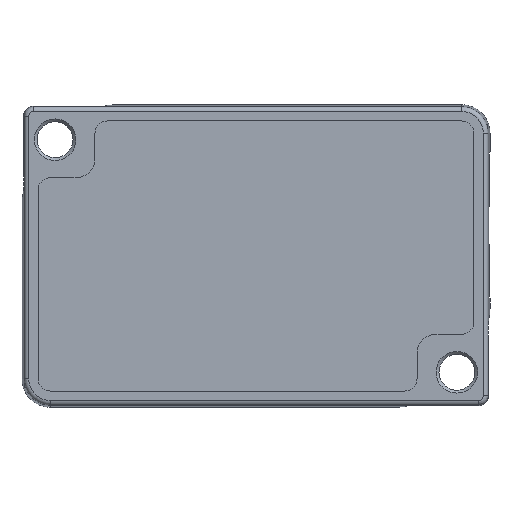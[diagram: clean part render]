
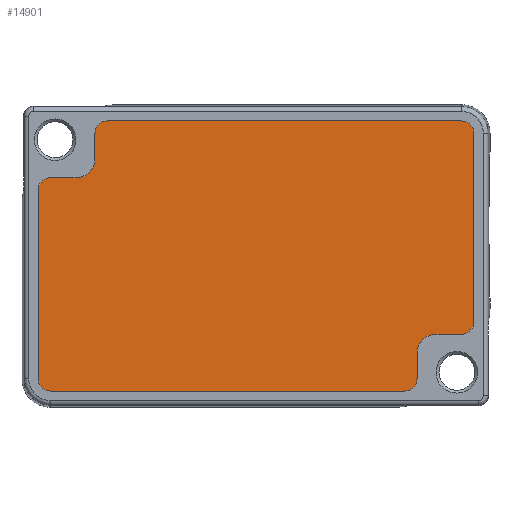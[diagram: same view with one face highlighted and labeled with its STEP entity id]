
A CAD part, front view. The second image highlights one B-rep face of the part: STEP entity #14901.
In plain terms, the highlighted planar face has unit normal (0, -1, 0).
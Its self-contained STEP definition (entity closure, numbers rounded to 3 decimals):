
#116 = ORIENTED_EDGE ( 'NONE', *, *, #9538, .T. ) ;
#149 = CARTESIAN_POINT ( 'NONE',  ( -17.035, -5.996, 12.995 ) ) ;
#175 = CARTESIAN_POINT ( 'NONE',  ( -19.035, -5.996, 8.285 ) ) ;
#199 = VERTEX_POINT ( 'NONE', #20589 ) ;
#345 = DIRECTION ( 'NONE',  ( 1., 0., 0. ) ) ;
#354 = LINE ( 'NONE', #149, #8045 ) ;
#425 = LINE ( 'NONE', #3772, #4942 ) ;
#596 = ORIENTED_EDGE ( 'NONE', *, *, #6743, .T. ) ;
#676 = VECTOR ( 'NONE', #3401, 1000. ) ;
#760 = EDGE_CURVE ( 'NONE', #199, #12439, #3956, .T. ) ;
#838 = AXIS2_PLACEMENT_3D ( 'NONE', #11114, #3053, #11228 ) ;
#894 = CARTESIAN_POINT ( 'NONE',  ( 21.745, -5.996, 12.995 ) ) ;
#1264 = VERTEX_POINT ( 'NONE', #12819 ) ;
#1303 = CARTESIAN_POINT ( 'NONE',  ( 15.745, -5.996, -14.285 ) ) ;
#1607 = ORIENTED_EDGE ( 'NONE', *, *, #20624, .T. ) ;
#1628 = CIRCLE ( 'NONE', #5458, 1.29 ) ;
#1905 = VERTEX_POINT ( 'NONE', #8313 ) ;
#2117 = VERTEX_POINT ( 'NONE', #19654 ) ;
#2132 = VERTEX_POINT ( 'NONE', #175 ) ;
#2575 = AXIS2_PLACEMENT_3D ( 'NONE', #894, #5700, #4159 ) ;
#2619 = DIRECTION ( 'NONE',  ( 0., -1., 0. ) ) ;
#2702 = DIRECTION ( 'NONE',  ( 1., 0., 0. ) ) ;
#2943 = VERTEX_POINT ( 'NONE', #16839 ) ;
#2965 = DIRECTION ( 'NONE',  ( 0., -1., 0. ) ) ;
#3053 = DIRECTION ( 'NONE',  ( 0., -1., 0. ) ) ;
#3393 = CARTESIAN_POINT ( 'NONE',  ( -19.035, -5.996, 10.285 ) ) ;
#3401 = DIRECTION ( 'NONE',  ( 0., 0., 1. ) ) ;
#3507 = CARTESIAN_POINT ( 'NONE',  ( 23.035, -5.996, -6.995 ) ) ;
#3620 = LINE ( 'NONE', #3507, #676 ) ;
#3673 = CARTESIAN_POINT ( 'NONE',  ( 19.035, -5.996, -8.285 ) ) ;
#3772 = CARTESIAN_POINT ( 'NONE',  ( -23.035, -5.996, 6.995 ) ) ;
#3956 = LINE ( 'NONE', #12426, #14425 ) ;
#4005 = CARTESIAN_POINT ( 'NONE',  ( -23.035, -5.996, -12.995 ) ) ;
#4159 = DIRECTION ( 'NONE',  ( 1., 0., 0. ) ) ;
#4354 = VERTEX_POINT ( 'NONE', #17390 ) ;
#4463 = CARTESIAN_POINT ( 'NONE',  ( 23.035, -5.996, -6.995 ) ) ;
#4706 = VERTEX_POINT ( 'NONE', #10339 ) ;
#4723 = VECTOR ( 'NONE', #14223, 1000. ) ;
#4846 = CARTESIAN_POINT ( 'NONE',  ( -19.035, -5.996, 10.285 ) ) ;
#4942 = VECTOR ( 'NONE', #18627, 1000. ) ;
#4948 = FACE_OUTER_BOUND ( 'NONE', #8790, .T. ) ;
#5092 = ORIENTED_EDGE ( 'NONE', *, *, #16815, .T. ) ;
#5458 = AXIS2_PLACEMENT_3D ( 'NONE', #21260, #9245, #2702 ) ;
#5700 = DIRECTION ( 'NONE',  ( 0., -1., 0. ) ) ;
#5773 = EDGE_CURVE ( 'NONE', #2117, #10764, #425, .T. ) ;
#5889 = DIRECTION ( 'NONE',  ( -1., 0., 0. ) ) ;
#6002 = ORIENTED_EDGE ( 'NONE', *, *, #14160, .T. ) ;
#6674 = CIRCLE ( 'NONE', #18746, 2. ) ;
#6696 = PLANE ( 'NONE',  #12517 ) ;
#6743 = EDGE_CURVE ( 'NONE', #10764, #199, #14394, .T. ) ;
#6764 = VERTEX_POINT ( 'NONE', #9772 ) ;
#7191 = VECTOR ( 'NONE', #19422, 1000. ) ;
#7202 = EDGE_CURVE ( 'NONE', #10882, #16684, #10595, .T. ) ;
#7227 = DIRECTION ( 'NONE',  ( 0., 0., 1. ) ) ;
#7389 = EDGE_CURVE ( 'NONE', #11364, #2132, #21361, .T. ) ;
#7536 = VECTOR ( 'NONE', #7227, 1000. ) ;
#7544 = ORIENTED_EDGE ( 'NONE', *, *, #8118, .T. ) ;
#7813 = EDGE_CURVE ( 'NONE', #1264, #13010, #1628, .T. ) ;
#7964 = CARTESIAN_POINT ( 'NONE',  ( 19.035, -5.996, -10.285 ) ) ;
#8045 = VECTOR ( 'NONE', #20409, 1000. ) ;
#8118 = EDGE_CURVE ( 'NONE', #6764, #4706, #10921, .T. ) ;
#8229 = ORIENTED_EDGE ( 'NONE', *, *, #7389, .T. ) ;
#8313 = CARTESIAN_POINT ( 'NONE',  ( -17.035, -5.996, 12.995 ) ) ;
#8385 = VERTEX_POINT ( 'NONE', #3673 ) ;
#8619 = CARTESIAN_POINT ( 'NONE',  ( -17.035, -5.996, 10.285 ) ) ;
#8790 = EDGE_LOOP ( 'NONE', ( #8229, #15881, #5092, #18200, #596, #14247, #116, #19398, #16201, #15963, #17007, #6002, #7544, #1607, #12834, #18173 ) ) ;
#9021 = CARTESIAN_POINT ( 'NONE',  ( 21.745, -5.996, 14.285 ) ) ;
#9225 = EDGE_CURVE ( 'NONE', #2132, #2943, #20498, .T. ) ;
#9245 = DIRECTION ( 'NONE',  ( 0., -1., 0. ) ) ;
#9338 = DIRECTION ( 'NONE',  ( 0., -1., 0. ) ) ;
#9538 = EDGE_CURVE ( 'NONE', #12439, #10882, #10982, .T. ) ;
#9772 = CARTESIAN_POINT ( 'NONE',  ( 23.035, -5.996, 12.995 ) ) ;
#10141 = DIRECTION ( 'NONE',  ( 0., 1., 0. ) ) ;
#10339 = CARTESIAN_POINT ( 'NONE',  ( 21.745, -5.996, 14.285 ) ) ;
#10594 = DIRECTION ( 'NONE',  ( 1., 0., 0. ) ) ;
#10595 = LINE ( 'NONE', #14147, #7536 ) ;
#10764 = VERTEX_POINT ( 'NONE', #4005 ) ;
#10882 = VERTEX_POINT ( 'NONE', #18192 ) ;
#10921 = CIRCLE ( 'NONE', #2575, 1.29 ) ;
#10982 = CIRCLE ( 'NONE', #16524, 1.29 ) ;
#11104 = LINE ( 'NONE', #14535, #7191 ) ;
#11114 = CARTESIAN_POINT ( 'NONE',  ( -21.745, -5.996, 6.995 ) ) ;
#11140 = CIRCLE ( 'NONE', #14228, 1.29 ) ;
#11228 = DIRECTION ( 'NONE',  ( 1., 0., 0. ) ) ;
#11302 = EDGE_CURVE ( 'NONE', #4354, #1905, #11140, .T. ) ;
#11364 = VERTEX_POINT ( 'NONE', #8619 ) ;
#11388 = CARTESIAN_POINT ( 'NONE',  ( -21.745, -5.996, -12.995 ) ) ;
#11451 = DIRECTION ( 'NONE',  ( 0., 1., 0. ) ) ;
#11529 = EDGE_CURVE ( 'NONE', #8385, #1264, #11104, .T. ) ;
#11603 = DIRECTION ( 'NONE',  ( -1., 0., 0. ) ) ;
#12012 = AXIS2_PLACEMENT_3D ( 'NONE', #3393, #10141, #345 ) ;
#12244 = VECTOR ( 'NONE', #5889, 1000. ) ;
#12426 = CARTESIAN_POINT ( 'NONE',  ( -21.745, -5.996, -14.285 ) ) ;
#12439 = VERTEX_POINT ( 'NONE', #1303 ) ;
#12517 = AXIS2_PLACEMENT_3D ( 'NONE', #4846, #11451, #19892 ) ;
#12819 = CARTESIAN_POINT ( 'NONE',  ( 21.745, -5.996, -8.285 ) ) ;
#12834 = ORIENTED_EDGE ( 'NONE', *, *, #11302, .T. ) ;
#13010 = VERTEX_POINT ( 'NONE', #4463 ) ;
#14147 = CARTESIAN_POINT ( 'NONE',  ( 17.035, -5.996, -10.285 ) ) ;
#14160 = EDGE_CURVE ( 'NONE', #13010, #6764, #3620, .T. ) ;
#14198 = CARTESIAN_POINT ( 'NONE',  ( 15.745, -5.996, -12.995 ) ) ;
#14223 = DIRECTION ( 'NONE',  ( -1., 0., 0. ) ) ;
#14228 = AXIS2_PLACEMENT_3D ( 'NONE', #19446, #2965, #19663 ) ;
#14247 = ORIENTED_EDGE ( 'NONE', *, *, #760, .T. ) ;
#14394 = CIRCLE ( 'NONE', #15444, 1.29 ) ;
#14425 = VECTOR ( 'NONE', #10594, 1000. ) ;
#14535 = CARTESIAN_POINT ( 'NONE',  ( 21.745, -5.996, -8.285 ) ) ;
#14665 = DIRECTION ( 'NONE',  ( 1., 0., 0. ) ) ;
#14876 = DIRECTION ( 'NONE',  ( 0., 1., 0. ) ) ;
#14901 = ADVANCED_FACE ( 'NONE', ( #4948 ), #6696, .F. ) ;
#15087 = EDGE_CURVE ( 'NONE', #1905, #11364, #354, .T. ) ;
#15191 = EDGE_CURVE ( 'NONE', #16684, #8385, #6674, .T. ) ;
#15444 = AXIS2_PLACEMENT_3D ( 'NONE', #11388, #2619, #11603 ) ;
#15776 = CARTESIAN_POINT ( 'NONE',  ( -19.035, -5.996, 8.285 ) ) ;
#15881 = ORIENTED_EDGE ( 'NONE', *, *, #9225, .T. ) ;
#15952 = DIRECTION ( 'NONE',  ( -1., 0., 0. ) ) ;
#15963 = ORIENTED_EDGE ( 'NONE', *, *, #11529, .T. ) ;
#16201 = ORIENTED_EDGE ( 'NONE', *, *, #15191, .T. ) ;
#16524 = AXIS2_PLACEMENT_3D ( 'NONE', #14198, #9338, #15952 ) ;
#16684 = VERTEX_POINT ( 'NONE', #16756 ) ;
#16756 = CARTESIAN_POINT ( 'NONE',  ( 17.035, -5.996, -10.285 ) ) ;
#16815 = EDGE_CURVE ( 'NONE', #2943, #2117, #17461, .T. ) ;
#16839 = CARTESIAN_POINT ( 'NONE',  ( -21.745, -5.996, 8.285 ) ) ;
#17007 = ORIENTED_EDGE ( 'NONE', *, *, #7813, .T. ) ;
#17390 = CARTESIAN_POINT ( 'NONE',  ( -15.745, -5.996, 14.285 ) ) ;
#17461 = CIRCLE ( 'NONE', #838, 1.29 ) ;
#18173 = ORIENTED_EDGE ( 'NONE', *, *, #15087, .T. ) ;
#18192 = CARTESIAN_POINT ( 'NONE',  ( 17.035, -5.996, -12.995 ) ) ;
#18200 = ORIENTED_EDGE ( 'NONE', *, *, #5773, .T. ) ;
#18627 = DIRECTION ( 'NONE',  ( 0., 0., -1. ) ) ;
#18746 = AXIS2_PLACEMENT_3D ( 'NONE', #7964, #14876, #14665 ) ;
#19398 = ORIENTED_EDGE ( 'NONE', *, *, #7202, .T. ) ;
#19422 = DIRECTION ( 'NONE',  ( 1., 0., 0. ) ) ;
#19446 = CARTESIAN_POINT ( 'NONE',  ( -15.745, -5.996, 12.995 ) ) ;
#19654 = CARTESIAN_POINT ( 'NONE',  ( -23.035, -5.996, 6.995 ) ) ;
#19663 = DIRECTION ( 'NONE',  ( -1., 0., 0. ) ) ;
#19892 = DIRECTION ( 'NONE',  ( 1., 0., 0. ) ) ;
#20409 = DIRECTION ( 'NONE',  ( 0., 0., -1. ) ) ;
#20498 = LINE ( 'NONE', #15776, #4723 ) ;
#20589 = CARTESIAN_POINT ( 'NONE',  ( -21.745, -5.996, -14.285 ) ) ;
#20624 = EDGE_CURVE ( 'NONE', #4706, #4354, #20703, .T. ) ;
#20703 = LINE ( 'NONE', #9021, #12244 ) ;
#21260 = CARTESIAN_POINT ( 'NONE',  ( 21.745, -5.996, -6.995 ) ) ;
#21361 = CIRCLE ( 'NONE', #12012, 2. ) ;
